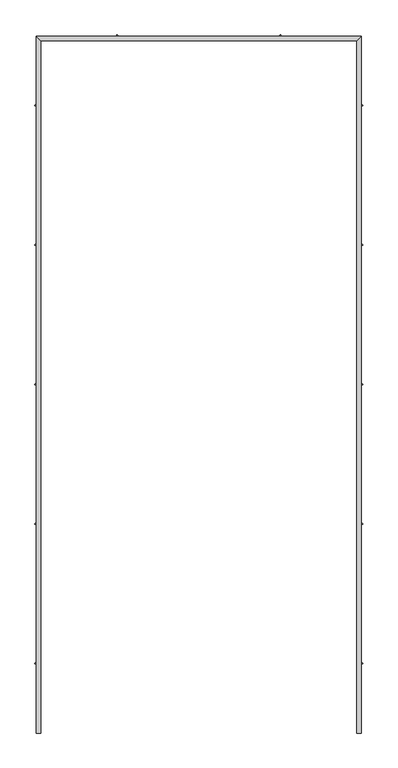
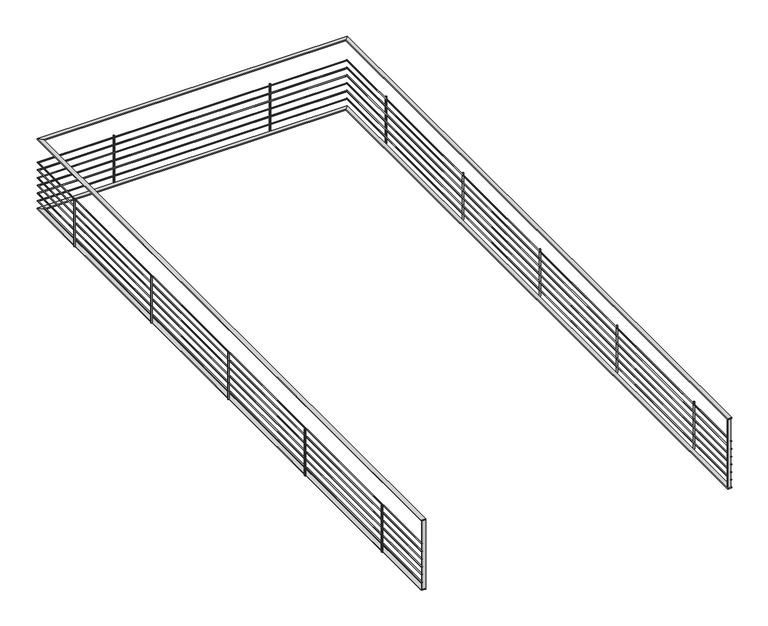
"""IFC4 building model written with IfcOpenShell, lengths in millimetres: railing geometry, Pletina y tubos."""

from ifc_helpers import new_model, si_unit, point, frame, frame_2d, origin, place, context, project, spatial, polyline, circle_curve, ellipse_curve, trimmed, segment, composite_curve, outline, extrude, faceted_brep, source, transform, mapped, element, save
from ifc_brep_helpers import plane_surface, cylinder_surface, advanced_brep


def railing_87f6ecb8(model_context):
    return source(origin(), model_context, "Body", "SolidModel", [
        faceted_brep([(-265.8601801, 3842.3330963, 6310.0), (-215.8601801, 3892.3330963, 6310.0), (-4016.0601801, 3892.3330963, 6310.0), (-3966.0601801, 3842.3330963, 6310.0), (-215.8601801, 3892.3330963, 6300.0), (-4016.0601801, 3892.3330963, 6300.0), (-265.8601801, 3842.3330963, 6300.0), (-3966.0601801, 3842.3330963, 6300.0), (-3966.0601801, -4262.6669037, 6310.0), (-4016.0601801, -4262.6669037, 6310.0), (-4016.0601801, -4262.6669037, 6300.0), (-3966.0601801, -4262.6669037, 6300.0), (-265.8601801, -4262.6669037, 6310.0), (-265.8601801, -4262.6669037, 6300.0), (-215.8601801, -4262.6669037, 6300.0), (-215.8601801, -4262.6669037, 6310.0)], [[[0, 1, 2, 3]], [[1, 4, 5, 2]], [[4, 6, 7, 5]], [[6, 0, 3, 7]], [[8, 9, 10, 11]], [[3, 2, 9, 8]], [[2, 5, 10, 9]], [[5, 7, 11, 10]], [[7, 3, 8, 11]], [[12, 13, 14, 15]], [[13, 12, 0, 6]], [[14, 13, 6, 4]], [[15, 14, 4, 1]], [[12, 15, 1, 0]]]),
        advanced_brep(
        [(-214.8601801, 3893.3330963, 6405.0), (-226.8601801, 3881.3330963, 6405.0), (-4005.0601801, 3881.3330963, 6405.0), (-4017.0601801, 3893.3330963, 6405.0), (-4017.0601801, -4262.6669037, 6405.0), (-4005.0601801, -4262.6669037, 6405.0), (-214.8601801, -4262.6669037, 6405.0), (-226.8601801, -4262.6669037, 6405.0)],
        [
            (0, 1, ellipse_curve(frame((-220.8601801, 3887.3330963, 6405.0), z_axis=(-0.7071067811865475, 0.7071067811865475, 0.0), x_axis=(0.7071067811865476, 0.7071067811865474, 0.0)), 8.4852814, 6.0)),
            (1, 2),
            (2, 3, ellipse_curve(frame((-4011.0601801, 3887.3330963, 6405.0), z_axis=(0.7071067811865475, 0.7071067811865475, 0.0), x_axis=(0.7071067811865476, -0.7071067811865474, 0.0)), 8.4852814, 6.0)),
            (3, 0),
            (1, 0, ellipse_curve(frame((-220.8601801, 3887.3330963, 6405.0), z_axis=(-0.7071067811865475, 0.7071067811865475, 0.0), x_axis=(0.7071067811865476, 0.7071067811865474, 0.0)), 8.4852814, 6.0)),
            (3, 2, ellipse_curve(frame((-4011.0601801, 3887.3330963, 6405.0), z_axis=(0.7071067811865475, 0.7071067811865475, 0.0), x_axis=(0.7071067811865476, -0.7071067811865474, 0.0)), 8.4852814, 6.0)),
            (4, 5, circle_curve(frame((-4011.0601801, -4262.6669037, 6405.0), z_axis=(0.0, -1.0, 0.0), x_axis=(1.0, 0.0, 0.0)), 6.0)),
            (5, 4, circle_curve(frame((-4011.0601801, -4262.6669037, 6405.0), z_axis=(0.0, -1.0, 0.0), x_axis=(1.0, 0.0, 0.0)), 6.0)),
            (2, 5),
            (4, 3),
            (6, 7, circle_curve(frame((-220.8601801, -4262.6669037, 6405.0), z_axis=(0.0, -1.0, 0.0), x_axis=(-1.0, 0.0, 0.0)), 6.0)),
            (7, 6, circle_curve(frame((-220.8601801, -4262.6669037, 6405.0), z_axis=(0.0, -1.0, 0.0), x_axis=(-1.0, 0.0, 0.0)), 6.0)),
            (6, 0),
            (1, 7),
        ],
        [
            cylinder_surface(frame((-220.8601801, 3887.3330963, 6405.0), z_axis=(1.0, 0.0, 0.0), x_axis=(0.0, -1.0, 0.0)), 6.0),
            plane_surface(frame((-4011.0601801, -4262.6669037, 6405.0), z_axis=(0.0, -1.0, 0.0), x_axis=(0.0, 0.0, -1.0))),
            cylinder_surface(frame((-4011.0601801, 3887.3330963, 6405.0), z_axis=(0.0, 1.0, 0.0), x_axis=(1.0, 0.0, 0.0)), 6.0),
            plane_surface(frame((-220.8601801, -4262.6669037, 6405.0), z_axis=(0.0, -1.0, 0.0), x_axis=(0.0, 0.0, 1.0))),
            cylinder_surface(frame((-220.8601801, -4262.6669037, 6405.0), z_axis=(0.0, -1.0, 0.0), x_axis=(-1.0, 0.0, 0.0)), 6.0),
        ],
        [
            (0, [[1, 2, 3, 4]]),
            (0, [[5, -4, 6, -2]]),
            (1, [[7, 8]]),
            (2, [[-3, 9, -7, 10]]),
            (2, [[-6, -10, -8, -9]]),
            (3, [[11, 12]]),
            (4, [[-11, 13, -5, 14]]),
            (4, [[-12, -14, -1, -13]]),
        ],
    ),
        advanced_brep(
        [(-214.8601801, 3893.3330963, 6505.0), (-226.8601801, 3881.3330963, 6505.0), (-4005.0601801, 3881.3330963, 6505.0), (-4017.0601801, 3893.3330963, 6505.0), (-4017.0601801, -4262.6669037, 6505.0), (-4005.0601801, -4262.6669037, 6505.0), (-214.8601801, -4262.6669037, 6505.0), (-226.8601801, -4262.6669037, 6505.0)],
        [
            (0, 1, ellipse_curve(frame((-220.8601801, 3887.3330963, 6505.0), z_axis=(-0.7071067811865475, 0.7071067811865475, 0.0), x_axis=(0.7071067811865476, 0.7071067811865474, 0.0)), 8.4852814, 6.0)),
            (1, 2),
            (2, 3, ellipse_curve(frame((-4011.0601801, 3887.3330963, 6505.0), z_axis=(0.7071067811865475, 0.7071067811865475, 0.0), x_axis=(0.7071067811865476, -0.7071067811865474, 0.0)), 8.4852814, 6.0)),
            (3, 0),
            (1, 0, ellipse_curve(frame((-220.8601801, 3887.3330963, 6505.0), z_axis=(-0.7071067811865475, 0.7071067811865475, 0.0), x_axis=(0.7071067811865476, 0.7071067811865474, 0.0)), 8.4852814, 6.0)),
            (3, 2, ellipse_curve(frame((-4011.0601801, 3887.3330963, 6505.0), z_axis=(0.7071067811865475, 0.7071067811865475, 0.0), x_axis=(0.7071067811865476, -0.7071067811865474, 0.0)), 8.4852814, 6.0)),
            (4, 5, circle_curve(frame((-4011.0601801, -4262.6669037, 6505.0), z_axis=(0.0, -1.0, 0.0), x_axis=(1.0, 0.0, 0.0)), 6.0)),
            (5, 4, circle_curve(frame((-4011.0601801, -4262.6669037, 6505.0), z_axis=(0.0, -1.0, 0.0), x_axis=(1.0, 0.0, 0.0)), 6.0)),
            (2, 5),
            (4, 3),
            (6, 7, circle_curve(frame((-220.8601801, -4262.6669037, 6505.0), z_axis=(0.0, -1.0, 0.0), x_axis=(-1.0, 0.0, 0.0)), 6.0)),
            (7, 6, circle_curve(frame((-220.8601801, -4262.6669037, 6505.0), z_axis=(0.0, -1.0, 0.0), x_axis=(-1.0, 0.0, 0.0)), 6.0)),
            (6, 0),
            (1, 7),
        ],
        [
            cylinder_surface(frame((-220.8601801, 3887.3330963, 6505.0), z_axis=(1.0, 0.0, 0.0), x_axis=(0.0, -1.0, 0.0)), 6.0),
            plane_surface(frame((-4011.0601801, -4262.6669037, 6505.0), z_axis=(0.0, -1.0, 0.0), x_axis=(0.0, 0.0, -1.0))),
            cylinder_surface(frame((-4011.0601801, 3887.3330963, 6505.0), z_axis=(0.0, 1.0, 0.0), x_axis=(1.0, 0.0, 0.0)), 6.0),
            plane_surface(frame((-220.8601801, -4262.6669037, 6505.0), z_axis=(0.0, -1.0, 0.0), x_axis=(0.0, 0.0, 1.0))),
            cylinder_surface(frame((-220.8601801, -4262.6669037, 6505.0), z_axis=(0.0, -1.0, 0.0), x_axis=(-1.0, 0.0, 0.0)), 6.0),
        ],
        [
            (0, [[1, 2, 3, 4]]),
            (0, [[5, -4, 6, -2]]),
            (1, [[7, 8]]),
            (2, [[-3, 9, -7, 10]]),
            (2, [[-6, -10, -8, -9]]),
            (3, [[11, 12]]),
            (4, [[-11, 13, -5, 14]]),
            (4, [[-12, -14, -1, -13]]),
        ],
    ),
        advanced_brep(
        [(-214.8601801, 3893.3330963, 6605.0), (-226.8601801, 3881.3330963, 6605.0), (-4005.0601801, 3881.3330963, 6605.0), (-4017.0601801, 3893.3330963, 6605.0), (-4017.0601801, -4262.6669037, 6605.0), (-4005.0601801, -4262.6669037, 6605.0), (-214.8601801, -4262.6669037, 6605.0), (-226.8601801, -4262.6669037, 6605.0)],
        [
            (0, 1, ellipse_curve(frame((-220.8601801, 3887.3330963, 6605.0), z_axis=(-0.7071067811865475, 0.7071067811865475, 0.0), x_axis=(0.7071067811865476, 0.7071067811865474, 0.0)), 8.4852814, 6.0)),
            (1, 2),
            (2, 3, ellipse_curve(frame((-4011.0601801, 3887.3330963, 6605.0), z_axis=(0.7071067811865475, 0.7071067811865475, 0.0), x_axis=(0.7071067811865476, -0.7071067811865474, 0.0)), 8.4852814, 6.0)),
            (3, 0),
            (1, 0, ellipse_curve(frame((-220.8601801, 3887.3330963, 6605.0), z_axis=(-0.7071067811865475, 0.7071067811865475, 0.0), x_axis=(0.7071067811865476, 0.7071067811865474, 0.0)), 8.4852814, 6.0)),
            (3, 2, ellipse_curve(frame((-4011.0601801, 3887.3330963, 6605.0), z_axis=(0.7071067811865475, 0.7071067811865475, 0.0), x_axis=(0.7071067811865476, -0.7071067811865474, 0.0)), 8.4852814, 6.0)),
            (4, 5, circle_curve(frame((-4011.0601801, -4262.6669037, 6605.0), z_axis=(0.0, -1.0, 0.0), x_axis=(1.0, 0.0, 0.0)), 6.0)),
            (5, 4, circle_curve(frame((-4011.0601801, -4262.6669037, 6605.0), z_axis=(0.0, -1.0, 0.0), x_axis=(1.0, 0.0, 0.0)), 6.0)),
            (2, 5),
            (4, 3),
            (6, 7, circle_curve(frame((-220.8601801, -4262.6669037, 6605.0), z_axis=(0.0, -1.0, 0.0), x_axis=(-1.0, 0.0, 0.0)), 6.0)),
            (7, 6, circle_curve(frame((-220.8601801, -4262.6669037, 6605.0), z_axis=(0.0, -1.0, 0.0), x_axis=(-1.0, 0.0, 0.0)), 6.0)),
            (6, 0),
            (1, 7),
        ],
        [
            cylinder_surface(frame((-220.8601801, 3887.3330963, 6605.0), z_axis=(1.0, 0.0, 0.0), x_axis=(0.0, -1.0, 0.0)), 6.0),
            plane_surface(frame((-4011.0601801, -4262.6669037, 6605.0), z_axis=(0.0, -1.0, 0.0), x_axis=(0.0, 0.0, -1.0))),
            cylinder_surface(frame((-4011.0601801, 3887.3330963, 6605.0), z_axis=(0.0, 1.0, 0.0), x_axis=(1.0, 0.0, 0.0)), 6.0),
            plane_surface(frame((-220.8601801, -4262.6669037, 6605.0), z_axis=(0.0, -1.0, 0.0), x_axis=(0.0, 0.0, 1.0))),
            cylinder_surface(frame((-220.8601801, -4262.6669037, 6605.0), z_axis=(0.0, -1.0, 0.0), x_axis=(-1.0, 0.0, 0.0)), 6.0),
        ],
        [
            (0, [[1, 2, 3, 4]]),
            (0, [[5, -4, 6, -2]]),
            (1, [[7, 8]]),
            (2, [[-3, 9, -7, 10]]),
            (2, [[-6, -10, -8, -9]]),
            (3, [[11, 12]]),
            (4, [[-11, 13, -5, 14]]),
            (4, [[-12, -14, -1, -13]]),
        ],
    ),
        advanced_brep(
        [(-214.8601801, 3893.3330963, 6705.0), (-226.8601801, 3881.3330963, 6705.0), (-4005.0601801, 3881.3330963, 6705.0), (-4017.0601801, 3893.3330963, 6705.0), (-4017.0601801, -4262.6669037, 6705.0), (-4005.0601801, -4262.6669037, 6705.0), (-214.8601801, -4262.6669037, 6705.0), (-226.8601801, -4262.6669037, 6705.0)],
        [
            (0, 1, ellipse_curve(frame((-220.8601801, 3887.3330963, 6705.0), z_axis=(-0.7071067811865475, 0.7071067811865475, 0.0), x_axis=(0.7071067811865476, 0.7071067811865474, 0.0)), 8.4852814, 6.0)),
            (1, 2),
            (2, 3, ellipse_curve(frame((-4011.0601801, 3887.3330963, 6705.0), z_axis=(0.7071067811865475, 0.7071067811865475, 0.0), x_axis=(0.7071067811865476, -0.7071067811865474, 0.0)), 8.4852814, 6.0)),
            (3, 0),
            (1, 0, ellipse_curve(frame((-220.8601801, 3887.3330963, 6705.0), z_axis=(-0.7071067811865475, 0.7071067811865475, 0.0), x_axis=(0.7071067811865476, 0.7071067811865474, 0.0)), 8.4852814, 6.0)),
            (3, 2, ellipse_curve(frame((-4011.0601801, 3887.3330963, 6705.0), z_axis=(0.7071067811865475, 0.7071067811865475, 0.0), x_axis=(0.7071067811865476, -0.7071067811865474, 0.0)), 8.4852814, 6.0)),
            (4, 5, circle_curve(frame((-4011.0601801, -4262.6669037, 6705.0), z_axis=(0.0, -1.0, 0.0), x_axis=(1.0, 0.0, 0.0)), 6.0)),
            (5, 4, circle_curve(frame((-4011.0601801, -4262.6669037, 6705.0), z_axis=(0.0, -1.0, 0.0), x_axis=(1.0, 0.0, 0.0)), 6.0)),
            (2, 5),
            (4, 3),
            (6, 7, circle_curve(frame((-220.8601801, -4262.6669037, 6705.0), z_axis=(0.0, -1.0, 0.0), x_axis=(-1.0, 0.0, 0.0)), 6.0)),
            (7, 6, circle_curve(frame((-220.8601801, -4262.6669037, 6705.0), z_axis=(0.0, -1.0, 0.0), x_axis=(-1.0, 0.0, 0.0)), 6.0)),
            (6, 0),
            (1, 7),
        ],
        [
            cylinder_surface(frame((-220.8601801, 3887.3330963, 6705.0), z_axis=(1.0, 0.0, 0.0), x_axis=(0.0, -1.0, 0.0)), 6.0),
            plane_surface(frame((-4011.0601801, -4262.6669037, 6705.0), z_axis=(0.0, -1.0, 0.0), x_axis=(0.0, 0.0, -1.0))),
            cylinder_surface(frame((-4011.0601801, 3887.3330963, 6705.0), z_axis=(0.0, 1.0, 0.0), x_axis=(1.0, 0.0, 0.0)), 6.0),
            plane_surface(frame((-220.8601801, -4262.6669037, 6705.0), z_axis=(0.0, -1.0, 0.0), x_axis=(0.0, 0.0, 1.0))),
            cylinder_surface(frame((-220.8601801, -4262.6669037, 6705.0), z_axis=(0.0, -1.0, 0.0), x_axis=(-1.0, 0.0, 0.0)), 6.0),
        ],
        [
            (0, [[1, 2, 3, 4]]),
            (0, [[5, -4, 6, -2]]),
            (1, [[7, 8]]),
            (2, [[-3, 9, -7, 10]]),
            (2, [[-6, -10, -8, -9]]),
            (3, [[11, 12]]),
            (4, [[-11, 13, -5, 14]]),
            (4, [[-12, -14, -1, -13]]),
        ],
    ),
        advanced_brep(
        [(-214.8601801, 3893.3330963, 6805.0), (-226.8601801, 3881.3330963, 6805.0), (-4005.0601801, 3881.3330963, 6805.0), (-4017.0601801, 3893.3330963, 6805.0), (-4017.0601801, -4262.6669037, 6805.0), (-4005.0601801, -4262.6669037, 6805.0), (-214.8601801, -4262.6669037, 6805.0), (-226.8601801, -4262.6669037, 6805.0)],
        [
            (0, 1, ellipse_curve(frame((-220.8601801, 3887.3330963, 6805.0), z_axis=(-0.7071067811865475, 0.7071067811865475, 0.0), x_axis=(0.7071067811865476, 0.7071067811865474, 0.0)), 8.4852814, 6.0)),
            (1, 2),
            (2, 3, ellipse_curve(frame((-4011.0601801, 3887.3330963, 6805.0), z_axis=(0.7071067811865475, 0.7071067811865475, 0.0), x_axis=(0.7071067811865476, -0.7071067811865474, 0.0)), 8.4852814, 6.0)),
            (3, 0),
            (1, 0, ellipse_curve(frame((-220.8601801, 3887.3330963, 6805.0), z_axis=(-0.7071067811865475, 0.7071067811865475, 0.0), x_axis=(0.7071067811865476, 0.7071067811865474, 0.0)), 8.4852814, 6.0)),
            (3, 2, ellipse_curve(frame((-4011.0601801, 3887.3330963, 6805.0), z_axis=(0.7071067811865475, 0.7071067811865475, 0.0), x_axis=(0.7071067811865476, -0.7071067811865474, 0.0)), 8.4852814, 6.0)),
            (4, 5, circle_curve(frame((-4011.0601801, -4262.6669037, 6805.0), z_axis=(0.0, -1.0, 0.0), x_axis=(1.0, 0.0, 0.0)), 6.0)),
            (5, 4, circle_curve(frame((-4011.0601801, -4262.6669037, 6805.0), z_axis=(0.0, -1.0, 0.0), x_axis=(1.0, 0.0, 0.0)), 6.0)),
            (2, 5),
            (4, 3),
            (6, 7, circle_curve(frame((-220.8601801, -4262.6669037, 6805.0), z_axis=(0.0, -1.0, 0.0), x_axis=(-1.0, 0.0, 0.0)), 6.0)),
            (7, 6, circle_curve(frame((-220.8601801, -4262.6669037, 6805.0), z_axis=(0.0, -1.0, 0.0), x_axis=(-1.0, 0.0, 0.0)), 6.0)),
            (6, 0),
            (1, 7),
        ],
        [
            cylinder_surface(frame((-220.8601801, 3887.3330963, 6805.0), z_axis=(1.0, 0.0, 0.0), x_axis=(0.0, -1.0, 0.0)), 6.0),
            plane_surface(frame((-4011.0601801, -4262.6669037, 6805.0), z_axis=(0.0, -1.0, 0.0), x_axis=(0.0, 0.0, -1.0))),
            cylinder_surface(frame((-4011.0601801, 3887.3330963, 6805.0), z_axis=(0.0, 1.0, 0.0), x_axis=(1.0, 0.0, 0.0)), 6.0),
            plane_surface(frame((-220.8601801, -4262.6669037, 6805.0), z_axis=(0.0, -1.0, 0.0), x_axis=(0.0, 0.0, 1.0))),
            cylinder_surface(frame((-220.8601801, -4262.6669037, 6805.0), z_axis=(0.0, -1.0, 0.0), x_axis=(-1.0, 0.0, 0.0)), 6.0),
        ],
        [
            (0, [[1, 2, 3, 4]]),
            (0, [[5, -4, 6, -2]]),
            (1, [[7, 8]]),
            (2, [[-3, 9, -7, 10]]),
            (2, [[-6, -10, -8, -9]]),
            (3, [[11, 12]]),
            (4, [[-11, 13, -5, 14]]),
            (4, [[-12, -14, -1, -13]]),
        ],
    ),
        advanced_brep(
        [(-214.8601801, 3893.3330963, 6905.0), (-226.8601801, 3881.3330963, 6905.0), (-4005.0601801, 3881.3330963, 6905.0), (-4017.0601801, 3893.3330963, 6905.0), (-4017.0601801, -4262.6669037, 6905.0), (-4005.0601801, -4262.6669037, 6905.0), (-214.8601801, -4262.6669037, 6905.0), (-226.8601801, -4262.6669037, 6905.0)],
        [
            (0, 1, ellipse_curve(frame((-220.8601801, 3887.3330963, 6905.0), z_axis=(-0.7071067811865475, 0.7071067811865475, 0.0), x_axis=(0.7071067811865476, 0.7071067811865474, 0.0)), 8.4852814, 6.0)),
            (1, 2),
            (2, 3, ellipse_curve(frame((-4011.0601801, 3887.3330963, 6905.0), z_axis=(0.7071067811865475, 0.7071067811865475, 0.0), x_axis=(0.7071067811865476, -0.7071067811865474, 0.0)), 8.4852814, 6.0)),
            (3, 0),
            (1, 0, ellipse_curve(frame((-220.8601801, 3887.3330963, 6905.0), z_axis=(-0.7071067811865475, 0.7071067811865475, 0.0), x_axis=(0.7071067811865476, 0.7071067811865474, 0.0)), 8.4852814, 6.0)),
            (3, 2, ellipse_curve(frame((-4011.0601801, 3887.3330963, 6905.0), z_axis=(0.7071067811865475, 0.7071067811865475, 0.0), x_axis=(0.7071067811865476, -0.7071067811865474, 0.0)), 8.4852814, 6.0)),
            (4, 5, circle_curve(frame((-4011.0601801, -4262.6669037, 6905.0), z_axis=(0.0, -1.0, 0.0), x_axis=(1.0, 0.0, 0.0)), 6.0)),
            (5, 4, circle_curve(frame((-4011.0601801, -4262.6669037, 6905.0), z_axis=(0.0, -1.0, 0.0), x_axis=(1.0, 0.0, 0.0)), 6.0)),
            (2, 5),
            (4, 3),
            (6, 7, circle_curve(frame((-220.8601801, -4262.6669037, 6905.0), z_axis=(0.0, -1.0, 0.0), x_axis=(-1.0, 0.0, 0.0)), 6.0)),
            (7, 6, circle_curve(frame((-220.8601801, -4262.6669037, 6905.0), z_axis=(0.0, -1.0, 0.0), x_axis=(-1.0, 0.0, 0.0)), 6.0)),
            (6, 0),
            (1, 7),
        ],
        [
            cylinder_surface(frame((-220.8601801, 3887.3330963, 6905.0), z_axis=(1.0, 0.0, 0.0), x_axis=(0.0, -1.0, 0.0)), 6.0),
            plane_surface(frame((-4011.0601801, -4262.6669037, 6905.0), z_axis=(0.0, -1.0, 0.0), x_axis=(0.0, 0.0, -1.0))),
            cylinder_surface(frame((-4011.0601801, 3887.3330963, 6905.0), z_axis=(0.0, 1.0, 0.0), x_axis=(1.0, 0.0, 0.0)), 6.0),
            plane_surface(frame((-220.8601801, -4262.6669037, 6905.0), z_axis=(0.0, -1.0, 0.0), x_axis=(0.0, 0.0, 1.0))),
            cylinder_surface(frame((-220.8601801, -4262.6669037, 6905.0), z_axis=(0.0, -1.0, 0.0), x_axis=(-1.0, 0.0, 0.0)), 6.0),
        ],
        [
            (0, [[1, 2, 3, 4]]),
            (0, [[5, -4, 6, -2]]),
            (1, [[7, 8]]),
            (2, [[-3, 9, -7, 10]]),
            (2, [[-6, -10, -8, -9]]),
            (3, [[11, 12]]),
            (4, [[-11, 13, -5, 14]]),
            (4, [[-12, -14, -1, -13]]),
        ],
    ),
        faceted_brep([(-265.8601801, 3842.3330963, 7210.0), (-215.8601801, 3892.3330963, 7210.0), (-4016.0601801, 3892.3330963, 7210.0), (-3966.0601801, 3842.3330963, 7210.0), (-215.8601801, 3892.3330963, 7200.0), (-4016.0601801, 3892.3330963, 7200.0), (-265.8601801, 3842.3330963, 7200.0), (-3966.0601801, 3842.3330963, 7200.0), (-3966.0601801, -4262.6669037, 7210.0), (-4016.0601801, -4262.6669037, 7210.0), (-4016.0601801, -4262.6669037, 7200.0), (-3966.0601801, -4262.6669037, 7200.0), (-265.8601801, -4262.6669037, 7210.0), (-265.8601801, -4262.6669037, 7200.0), (-215.8601801, -4262.6669037, 7200.0), (-215.8601801, -4262.6669037, 7210.0)], [[[0, 1, 2, 3]], [[1, 4, 5, 2]], [[4, 6, 7, 5]], [[6, 0, 3, 7]], [[8, 9, 10, 11]], [[3, 2, 9, 8]], [[2, 5, 10, 9]], [[5, 7, 11, 10]], [[7, 3, 8, 11]], [[12, 13, 14, 15]], [[13, 12, 0, 6]], [[14, 13, 6, 4]], [[15, 14, 4, 1]], [[12, 15, 1, 0]]]),
        extrude(outline(composite_curve([segment(trimmed(circle_curve(frame_2d((-4026.0601801, -3446.1669037)), 8.0), [point((-4034.0601801, -3446.1669037))], [point((-4018.0601801, -3446.1669037))], False, "CARTESIAN"), True, "CONTINUOUS"), segment(trimmed(circle_curve(frame_2d((-4026.0601801, -3446.1669037)), 8.0), [point((-4018.0601801, -3446.1669037))], [point((-4034.0601801, -3446.1669037))], False, "CARTESIAN"), True, "CONTINUOUS")], self_intersect=False)), frame((0.0, 0.0, 6310.0), z_axis=(0.0, 0.0, 1.0), x_axis=(1.0, 0.0, 0.0)), (0.0, 0.0, 1.0), 605.0),
        extrude(outline(composite_curve([segment(trimmed(circle_curve(frame_2d((-4026.0601801, -1813.1669037)), 8.0), [point((-4034.0601801, -1813.1669037))], [point((-4018.0601801, -1813.1669037))], False, "CARTESIAN"), True, "CONTINUOUS"), segment(trimmed(circle_curve(frame_2d((-4026.0601801, -1813.1669037)), 8.0), [point((-4018.0601801, -1813.1669037))], [point((-4034.0601801, -1813.1669037))], False, "CARTESIAN"), True, "CONTINUOUS")], self_intersect=False)), frame((0.0, 0.0, 6310.0), z_axis=(0.0, 0.0, 1.0), x_axis=(1.0, 0.0, 0.0)), (0.0, 0.0, 1.0), 605.0),
        extrude(outline(composite_curve([segment(trimmed(circle_curve(frame_2d((-4026.0601801, -180.1669037)), 8.0), [point((-4034.0601801, -180.1669037))], [point((-4018.0601801, -180.1669037))], False, "CARTESIAN"), True, "CONTINUOUS"), segment(trimmed(circle_curve(frame_2d((-4026.0601801, -180.1669037)), 8.0), [point((-4018.0601801, -180.1669037))], [point((-4034.0601801, -180.1669037))], False, "CARTESIAN"), True, "CONTINUOUS")], self_intersect=False)), frame((0.0, 0.0, 6310.0), z_axis=(0.0, 0.0, 1.0), x_axis=(1.0, 0.0, 0.0)), (0.0, 0.0, 1.0), 605.0),
        extrude(outline(composite_curve([segment(trimmed(circle_curve(frame_2d((-4026.0601801, 1452.8330963)), 8.0), [point((-4034.0601801, 1452.8330963))], [point((-4018.0601801, 1452.8330963))], False, "CARTESIAN"), True, "CONTINUOUS"), segment(trimmed(circle_curve(frame_2d((-4026.0601801, 1452.8330963)), 8.0), [point((-4018.0601801, 1452.8330963))], [point((-4034.0601801, 1452.8330963))], False, "CARTESIAN"), True, "CONTINUOUS")], self_intersect=False)), frame((0.0, 0.0, 6310.0), z_axis=(0.0, 0.0, 1.0), x_axis=(1.0, 0.0, 0.0)), (0.0, 0.0, 1.0), 605.0),
        extrude(outline(composite_curve([segment(trimmed(circle_curve(frame_2d((-4026.0601801, 3085.8330963)), 8.0), [point((-4034.0601801, 3085.8330963))], [point((-4018.0601801, 3085.8330963))], False, "CARTESIAN"), True, "CONTINUOUS"), segment(trimmed(circle_curve(frame_2d((-4026.0601801, 3085.8330963)), 8.0), [point((-4018.0601801, 3085.8330963))], [point((-4034.0601801, 3085.8330963))], False, "CARTESIAN"), True, "CONTINUOUS")], self_intersect=False)), frame((0.0, 0.0, 6310.0), z_axis=(0.0, 0.0, 1.0), x_axis=(1.0, 0.0, 0.0)), (0.0, 0.0, 1.0), 605.0),
        extrude(outline(composite_curve([segment(trimmed(circle_curve(frame_2d((-3071.0101801, 3902.3330963)), 8.0), [point((-3071.0101801, 3910.3330963))], [point((-3071.0101801, 3894.3330963))], False, "CARTESIAN"), True, "CONTINUOUS"), segment(trimmed(circle_curve(frame_2d((-3071.0101801, 3902.3330963)), 8.0), [point((-3071.0101801, 3894.3330963))], [point((-3071.0101801, 3910.3330963))], False, "CARTESIAN"), True, "CONTINUOUS")], self_intersect=False)), frame((0.0, 0.0, 6310.0), z_axis=(0.0, 0.0, 1.0), x_axis=(1.0, 0.0, 0.0)), (0.0, 0.0, 1.0), 605.0),
        extrude(outline(composite_curve([segment(trimmed(circle_curve(frame_2d((-1160.9101801, 3902.3330963)), 8.0), [point((-1160.9101801, 3910.3330963))], [point((-1160.9101801, 3894.3330963))], False, "CARTESIAN"), True, "CONTINUOUS"), segment(trimmed(circle_curve(frame_2d((-1160.9101801, 3902.3330963)), 8.0), [point((-1160.9101801, 3894.3330963))], [point((-1160.9101801, 3910.3330963))], False, "CARTESIAN"), True, "CONTINUOUS")], self_intersect=False)), frame((0.0, 0.0, 6310.0), z_axis=(0.0, 0.0, 1.0), x_axis=(1.0, 0.0, 0.0)), (0.0, 0.0, 1.0), 605.0),
        extrude(outline(composite_curve([segment(trimmed(circle_curve(frame_2d((-205.8601801, 3085.8330963)), 8.0), [point((-197.8601801, 3085.8330963))], [point((-213.8601801, 3085.8330963))], False, "CARTESIAN"), True, "CONTINUOUS"), segment(trimmed(circle_curve(frame_2d((-205.8601801, 3085.8330963)), 8.0), [point((-213.8601801, 3085.8330963))], [point((-197.8601801, 3085.8330963))], False, "CARTESIAN"), True, "CONTINUOUS")], self_intersect=False)), frame((0.0, 0.0, 6310.0), z_axis=(0.0, 0.0, 1.0), x_axis=(1.0, 0.0, 0.0)), (0.0, 0.0, 1.0), 605.0),
        extrude(outline(composite_curve([segment(trimmed(circle_curve(frame_2d((-205.8601801, 1452.8330963)), 8.0), [point((-197.8601801, 1452.8330963))], [point((-213.8601801, 1452.8330963))], False, "CARTESIAN"), True, "CONTINUOUS"), segment(trimmed(circle_curve(frame_2d((-205.8601801, 1452.8330963)), 8.0), [point((-213.8601801, 1452.8330963))], [point((-197.8601801, 1452.8330963))], False, "CARTESIAN"), True, "CONTINUOUS")], self_intersect=False)), frame((0.0, 0.0, 6310.0), z_axis=(0.0, 0.0, 1.0), x_axis=(1.0, 0.0, 0.0)), (0.0, 0.0, 1.0), 605.0),
        extrude(outline(composite_curve([segment(trimmed(circle_curve(frame_2d((-205.8601801, -180.1669037)), 8.0), [point((-197.8601801, -180.1669037))], [point((-213.8601801, -180.1669037))], False, "CARTESIAN"), True, "CONTINUOUS"), segment(trimmed(circle_curve(frame_2d((-205.8601801, -180.1669037)), 8.0), [point((-213.8601801, -180.1669037))], [point((-197.8601801, -180.1669037))], False, "CARTESIAN"), True, "CONTINUOUS")], self_intersect=False)), frame((0.0, 0.0, 6310.0), z_axis=(0.0, 0.0, 1.0), x_axis=(1.0, 0.0, 0.0)), (0.0, 0.0, 1.0), 605.0),
        extrude(outline(composite_curve([segment(trimmed(circle_curve(frame_2d((-205.8601801, -1813.1669037)), 8.0), [point((-197.8601801, -1813.1669037))], [point((-213.8601801, -1813.1669037))], False, "CARTESIAN"), True, "CONTINUOUS"), segment(trimmed(circle_curve(frame_2d((-205.8601801, -1813.1669037)), 8.0), [point((-213.8601801, -1813.1669037))], [point((-197.8601801, -1813.1669037))], False, "CARTESIAN"), True, "CONTINUOUS")], self_intersect=False)), frame((0.0, 0.0, 6310.0), z_axis=(0.0, 0.0, 1.0), x_axis=(1.0, 0.0, 0.0)), (0.0, 0.0, 1.0), 605.0),
        extrude(outline(composite_curve([segment(trimmed(circle_curve(frame_2d((-205.8601801, -3446.1669037)), 8.0), [point((-197.8601801, -3446.1669037))], [point((-213.8601801, -3446.1669037))], False, "CARTESIAN"), True, "CONTINUOUS"), segment(trimmed(circle_curve(frame_2d((-205.8601801, -3446.1669037)), 8.0), [point((-213.8601801, -3446.1669037))], [point((-197.8601801, -3446.1669037))], False, "CARTESIAN"), True, "CONTINUOUS")], self_intersect=False)), frame((0.0, 0.0, 6310.0), z_axis=(0.0, 0.0, 1.0), x_axis=(1.0, 0.0, 0.0)), (0.0, 0.0, 1.0), 605.0),
        extrude(outline(polyline([(-4006.0601801, -4252.6669037), (-3966.0601801, -4252.6669037), (-3966.0601801, -4262.6669037), (-4006.0601801, -4262.6669037), (-4006.0601801, -4252.6669037)])), frame((0.0, 0.0, 6310.0), z_axis=(0.0, 0.0, 1.0), x_axis=(1.0, 0.0, 0.0)), (0.0, 0.0, 1.0), 890.0),
        extrude(outline(polyline([(-225.8601801, -4262.6669037), (-265.8601801, -4262.6669037), (-265.8601801, -4252.6669037), (-225.8601801, -4252.6669037), (-225.8601801, -4262.6669037)])), frame((0.0, 0.0, 6310.0), z_axis=(0.0, 0.0, 1.0), x_axis=(1.0, 0.0, 0.0)), (0.0, 0.0, 1.0), 890.0),
    ])


if __name__ == "__main__":
    model = new_model("IFC4")
    model_context = context("Model", 3, world=origin())
    ifc_project = project(units=[si_unit("LENGTHUNIT", "METRE", prefix="MILLI")], contexts=[model_context])
    site = spatial("IfcSite", under=ifc_project)
    building = spatial("IfcBuilding", under=site)
    placement = place(None, origin())
    railing_shape = railing_87f6ecb8(model_context)
    element("IfcRailing", 1, ObjectType="Pletina y tubos", at=placement, inside=building, context=model_context, shape_type="MappedRepresentation", body=[
        mapped(railing_shape, transform((0.0, 0.0, 0.0), x_axis=(1.0, 0.0, 0.0), y_axis=(0.0, 1.0, 0.0), z_axis=(0.0, 0.0, 1.0))),
    ])
    save(model, "model.ifc")
